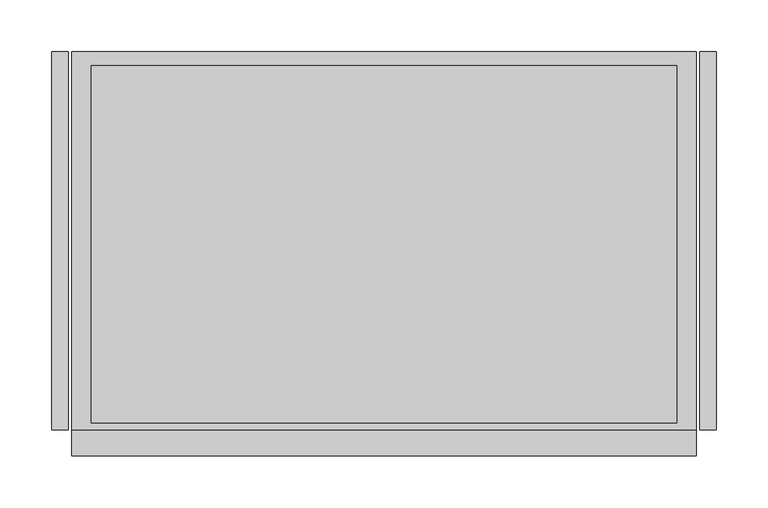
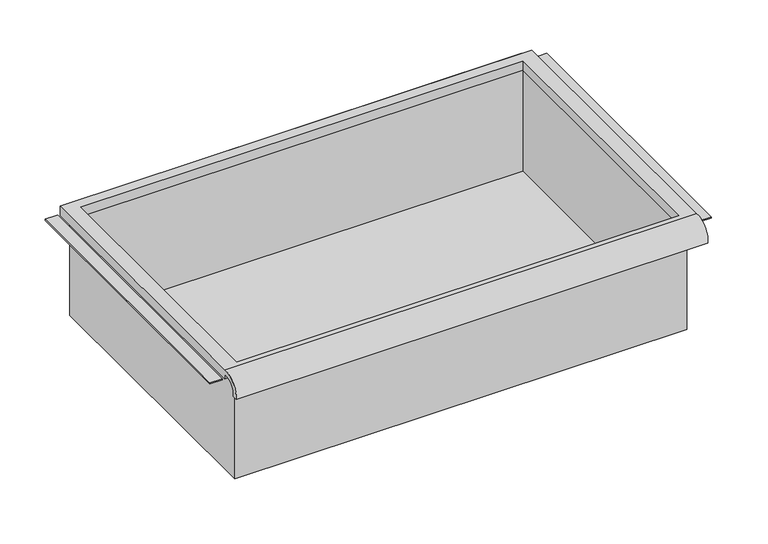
"""IFC4 building model written with IfcOpenShell, lengths in millimetres: furniture geometry."""

from ifc_helpers import new_model, si_unit, frame, origin, place, context, project, spatial, polyline, circle_curve, faceted_brep, source, transform, mapped, element, save
from ifc_brep_helpers import plane_surface, cylinder_surface, revolved_surface, advanced_brep


def furniture_4502353a(model_context):
    return source(origin(), model_context, "Body", "SolidModel", [
        advanced_brep(
        [(305.0224999, -195.297482, 662.7849529), (305.0224999, -188.9125, 662.7849529), (305.0224999, -169.8625, 681.0464261), (305.0224999, -169.8625, 674.6964246), (305.0224999, 195.2625, 674.6964246), (305.0224999, 195.2625, 687.3964261), (305.0224999, -169.8625, 687.3964261), (-298.2275001, -195.297482, 662.7849529), (-298.2275001, -169.8625, 687.3964261), (-298.2275001, 195.2625, 687.3964261), (-298.2275001, 195.2625, 674.6964246), (-298.2275001, -169.8625, 674.6964246), (-298.2275001, -169.8625, 681.0464261), (-298.2275001, -188.9125, 662.7849529), (285.9725003, 181.9275, 674.6964246), (-279.1775005, 181.9275, 674.6964246), (-279.1775005, -163.5125, 674.6964246), (285.9725003, -163.5125, 674.6964246), (-279.1775005, 181.9275, 687.3964261), (285.9725003, 181.9275, 687.3964261), (285.9725003, -163.5125, 687.3964261), (-279.1775005, -163.5125, 687.3964261)],
        [
            (0, 1),
            (1, 2, circle_curve(frame((305.0224999, -172.3404634, 664.5643633), z_axis=(-1.0, 0.0, 0.0), x_axis=(0.0, 1.0, 0.0)), 16.6672942)),
            (2, 3),
            (3, 4),
            (4, 5),
            (5, 6),
            (6, 0, circle_curve(frame((305.0224999, -172.4601678, 664.6322533), z_axis=(1.0, 0.0, 0.0), x_axis=(0.0, 1.0, 0.0)), 22.9119061)),
            (7, 8, circle_curve(frame((-298.2275001, -172.4601678, 664.6322533), z_axis=(-1.0, 0.0, 0.0), x_axis=(0.0, 1.0, 0.0)), 22.9119061)),
            (8, 9),
            (9, 10),
            (10, 11),
            (11, 12),
            (12, 13, circle_curve(frame((-298.2275001, -172.3404634, 664.5643633), z_axis=(1.0, 0.0, 0.0), x_axis=(0.0, 1.0, 0.0)), 16.6672942)),
            (13, 7),
            (0, 7),
            (13, 1),
            (12, 2),
            (11, 3),
            (10, 4),
            (14, 15),
            (15, 16),
            (16, 17),
            (17, 14),
            (9, 5),
            (8, 6),
            (18, 19),
            (19, 20),
            (20, 21),
            (21, 18),
            (14, 19),
            (18, 15),
            (21, 16),
            (20, 17),
        ],
        [
            plane_surface(frame((305.0224999, -195.297482, 662.7849529), z_axis=(1.0, 0.0, 0.0), x_axis=(0.0, 1.0, 0.0))),
            plane_surface(frame((-298.2275001, -195.297482, 662.7849529), z_axis=(-1.0, 0.0, 0.0), x_axis=(0.0, -1.0, 0.0))),
            plane_surface(frame((305.0224999, -195.297482, 662.7849529), z_axis=(0.0, 0.0, -1.0), x_axis=(-1.0, 0.0, 0.0))),
            revolved_surface(polyline([(-298.2275001, -155.67316920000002, 664.5643633), (305.0224999, -155.67316920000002, 664.5643633)]), (-298.2275001, -172.3404634, 664.5643633), (-1.0, 0.0, 0.0)),
            plane_surface(frame((305.0224999, -169.8625, 681.0464261), z_axis=(0.0, -1.0, 1.1830533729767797e-12), x_axis=(-1.0, 0.0, 0.0))),
            plane_surface(frame((305.0224999, -169.8625, 674.6964246), z_axis=(0.0, 0.0, -1.0), x_axis=(-1.0, 0.0, 0.0))),
            plane_surface(frame((305.0224999, 195.2625, 674.6964246), z_axis=(0.0, 1.0, 0.0), x_axis=(-1.0, 0.0, 0.0))),
            plane_surface(frame((305.0224999, 195.2625, 687.3964261), z_axis=(0.0, 0.0, 1.0), x_axis=(-1.0, 0.0, 0.0))),
            cylinder_surface(frame((-298.2275001, -172.4601678, 664.6322533), z_axis=(1.0, 0.0, 0.0), x_axis=(0.0, 1.0, 0.0)), 22.9119061),
            plane_surface(frame((285.9725003, 181.9275, 687.3964261), z_axis=(0.0, -1.0, 0.0), x_axis=(0.0, 0.0, -1.0))),
            plane_surface(frame((-279.1775005, 181.9275, 687.3964261), z_axis=(1.0, 0.0, 0.0), x_axis=(0.0, 0.0, -1.0))),
            plane_surface(frame((-279.1775005, -163.5125, 687.3964261), z_axis=(0.0, 1.0, 0.0), x_axis=(0.0, 0.0, -1.0))),
            plane_surface(frame((285.9725003, -163.5125, 687.3964261), z_axis=(-1.0, 0.0, 0.0), x_axis=(0.0, 0.0, -1.0))),
        ],
        [
            (0, [[1, 2, 3, 4, 5, 6, 7]]),
            (1, [[8, 9, 10, 11, 12, 13, 14]]),
            (2, [[-1, 15, -14, 16]]),
            (3, [[-2, -16, -13, 17]]),
            (4, [[-3, -17, -12, 18]]),
            (5, [[-4, -18, -11, 19], [20, 21, 22, 23]]),
            (6, [[-5, -19, -10, 24]]),
            (7, [[-6, -24, -9, 25], [26, 27, 28, 29]]),
            (8, [[-7, -25, -8, -15]]),
            (9, [[30, -26, 31, -20]]),
            (10, [[-31, -29, 32, -21]]),
            (11, [[-32, -28, 33, -22]]),
            (12, [[-30, -23, -33, -27]]),
        ],
    ),
        faceted_brep([(-285.5275005, -169.8625, 534.9964261), (292.3225003, -169.8625, 534.9964261), (292.3225003, -169.8625, 687.3964261), (-285.5275005, -169.8625, 687.3964261), (-285.5275005, 195.2625, 534.9964261), (-285.5275005, 195.2625, 687.3964261), (292.3225003, 195.2625, 687.3964261), (292.3225003, 195.2625, 534.9964261), (-279.1775005, 181.9275, 687.3964261), (285.9725003, 181.9275, 687.3964261), (285.9725003, -163.5125, 687.3964261), (-279.1775005, -163.5125, 687.3964261), (285.9725003, 181.9275, 538.022598), (-279.1775005, 181.9275, 538.022598), (-279.1775005, -163.5125, 538.022598), (285.9725003, -163.5125, 538.022598)], [[[0, 1, 2, 3]], [[4, 5, 6, 7]], [[1, 0, 4, 7]], [[2, 1, 7, 6]], [[3, 2, 6, 5], [8, 9, 10, 11]], [[0, 3, 5, 4]], [[12, 13, 14, 15]], [[13, 12, 9, 8]], [[14, 13, 8, 11]], [[15, 14, 11, 10]], [[12, 15, 10, 9]]]),
        faceted_brep([(-317.2774997, 195.2625, 674.6964246), (-317.2774997, 195.2625, 676.2839246), (-301.4025001, 195.2625, 676.2839246), (-301.4025001, 195.2625, 674.6964246), (-317.2774997, -169.8625, 674.6964246), (-301.4025001, -169.8625, 674.6964246), (-301.4025001, -169.8625, 676.2839246), (-317.2774997, -169.8625, 676.2839246)], [[[0, 1, 2, 3]], [[4, 5, 6, 7]], [[1, 0, 4, 7]], [[2, 1, 7, 6]], [[3, 2, 6, 5]], [[0, 3, 5, 4]]]),
        faceted_brep([(324.0725245, 195.2625, 674.6964246), (308.1974999, 195.2625, 674.6964246), (308.1974999, 195.2625, 676.2839246), (324.0725245, 195.2625, 676.2839246), (324.0725245, -169.8625, 674.6964246), (324.0725245, -169.8625, 676.2839246), (308.1974999, -169.8625, 676.2839246), (308.1974999, -169.8625, 674.6964246)], [[[0, 1, 2, 3]], [[4, 5, 6, 7]], [[1, 0, 4, 7]], [[2, 1, 7, 6]], [[3, 2, 6, 5]], [[0, 3, 5, 4]]]),
    ])


if __name__ == "__main__":
    model = new_model("IFC4")
    model_context = context("Model", 3, world=origin())
    ifc_project = project(units=[si_unit("LENGTHUNIT", "METRE", prefix="MILLI")], contexts=[model_context])
    site = spatial("IfcSite", under=ifc_project)
    building = spatial("IfcBuilding", under=site)
    placement = place(None, origin())
    furniture_shape = furniture_4502353a(model_context)
    element("IfcFurniture", 1, ObjectType="HermanMiller_Carts_CT511_Drawer : 6\"H x 15\"D x 24\"W", at=placement, inside=building, context=model_context, shape_type="MappedRepresentation", body=[
        mapped(furniture_shape, transform((0.0, 0.0, 0.0), x_axis=(1.0, 0.0, 0.0), y_axis=(0.0, 1.0, 0.0), z_axis=(0.0, 0.0, 1.0))),
    ])
    save(model, "model.ifc")
